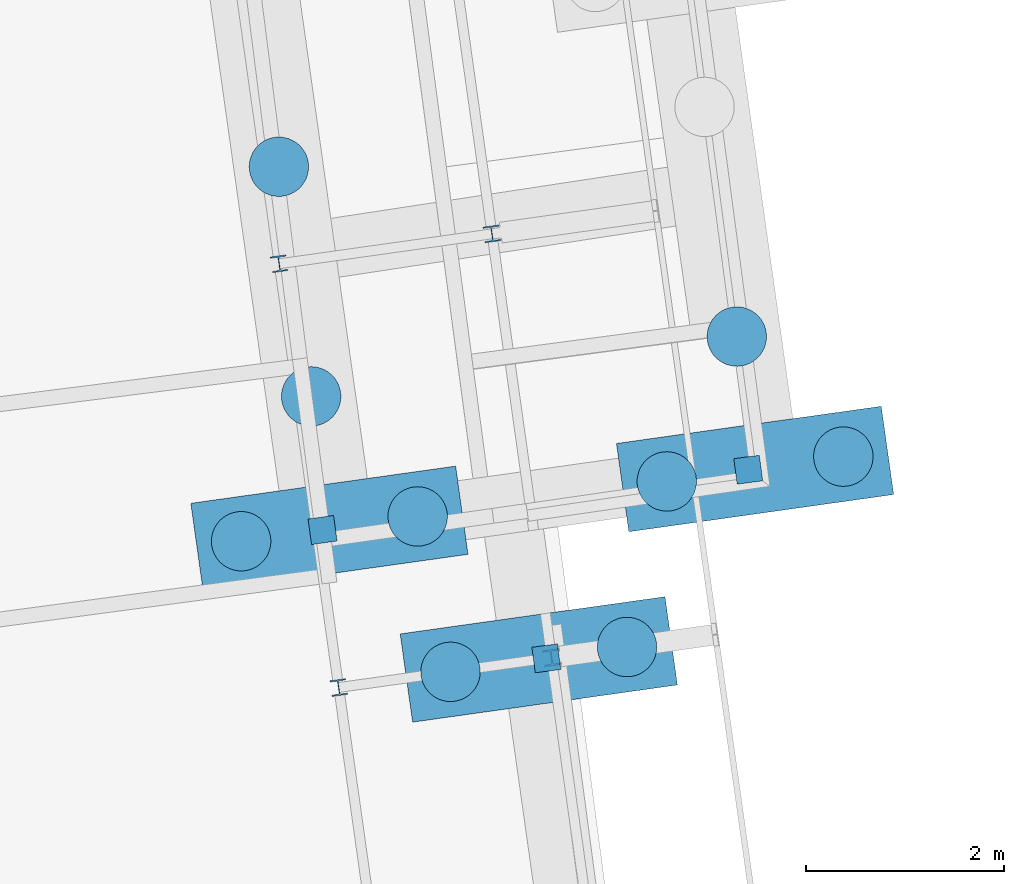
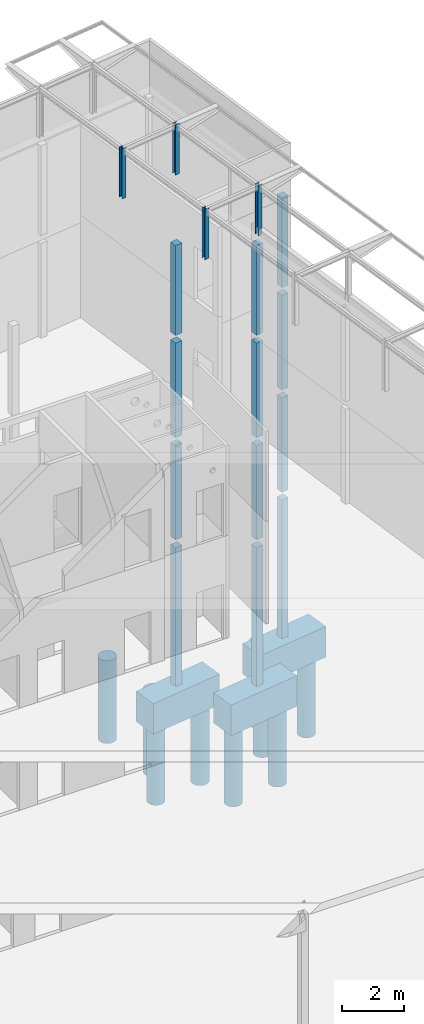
# One storey, part 58 of 82: 28 columns.
"""IFC2X3 building model written with IfcOpenShell, lengths in millimetres."""

from ifc_helpers import new_model, si_unit, frame, frame_2d, origin_with_axes, place, context, subcontext, project, spatial, rectangle, circle, i_section, extrude, material, type_object, element, save


model = new_model("IFC2X3")

# Units and contexts
model_context = context("Model", 3, precision=1e-05, world=origin_with_axes())
body_context = subcontext(model_context, "Body", "Model", "MODEL_VIEW")
ifc_project = project(units=[si_unit("LENGTHUNIT", "METRE", prefix="MILLI"), si_unit("AREAUNIT", "SQUARE_METRE"), si_unit("VOLUMEUNIT", "CUBIC_METRE"), si_unit("MASSUNIT", "GRAM", prefix="KILO"), si_unit("TIMEUNIT", "SECOND"), si_unit("PLANEANGLEUNIT", "RADIAN"), si_unit("SOLIDANGLEUNIT", "STERADIAN"), si_unit("THERMODYNAMICTEMPERATUREUNIT", "DEGREE_CELSIUS"), si_unit("LUMINOUSINTENSITYUNIT", "LUMEN")], contexts=[model_context])

# Site, building, storey
site_placement = place(None, origin_with_axes())
site = spatial("IfcSite", under=ifc_project, at=site_placement, Name="Undefined", CompositionType="ELEMENT")
building_placement = place(site_placement, origin_with_axes())
building = spatial("IfcBuilding", under=site, at=building_placement, Name="Undefined", CompositionType="ELEMENT")
storey_placement = place(building_placement, origin_with_axes())
storey = spatial("IfcBuildingStorey", under=building, at=storey_placement, Name="Undefined", CompositionType="ELEMENT", Elevation=0.0)

# Columns
ifc_material_1 = material(Name="CONCRETE/C25/30")
column_type_1 = type_object("IfcColumnType", Name="260*260", PredefinedType="NOTDEFINED")
column_1_placement = place(storey_placement, frame((63637.575516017, 19902.1024306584, 13330.0), z_axis=(0.0, 0.0, 1.0), x_axis=(1.0, 0.0, 0.0)))
element("IfcColumn", 1, at=column_1_placement, inside=storey, type_object=column_type_1, material=ifc_material_1, Name="POTEAU", ObjectType="260*260", context=body_context, shape_type="SweptSolid", body=[
    extrude(rectangle(XDim=260.0, YDim=260.0, at=frame_2d((5.17284206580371e-08, 4.49290382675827e-10), x_axis=(1.0, 0.0))), frame((0.0, 0.000229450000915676, 3530.0), z_axis=(0.0, -6.50000002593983e-08, -0.999999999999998), x_axis=(-0.139177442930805, 0.990267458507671, 0.0)), (0.0, 0.0, 1.0), 3530.0),
])
column_2_placement = place(storey_placement, frame((67935.7612497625, 20510.6763149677, 13330.0), z_axis=(0.0, 0.0, 1.0), x_axis=(1.0, 0.0, 0.0)))
element("IfcColumn", 2, at=column_2_placement, inside=storey, type_object=column_type_1, material=ifc_material_1, Name="POTEAU", ObjectType="260*260", context=body_context, shape_type="SweptSolid", body=[
    extrude(rectangle(XDim=260.0, YDim=260.0, at=frame_2d((5.17284206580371e-08, 4.49290382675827e-10), x_axis=(1.0, 0.0))), frame((0.0, 0.000229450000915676, 3530.0), z_axis=(0.0, -6.50000002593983e-08, -0.999999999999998), x_axis=(-0.131283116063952, 0.991344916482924, -6.44374198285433e-08)), (0.0, 0.0, 1.0), 3530.0),
])
column_3_placement = place(storey_placement, frame((65896.8167042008, 18606.6540428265, 13330.0), z_axis=(0.0, 0.0, 1.0), x_axis=(1.0, 0.0, 0.0)))
element("IfcColumn", 3, at=column_3_placement, inside=storey, type_object=column_type_1, material=ifc_material_1, Name="POTEAU", ObjectType="260*260", context=body_context, shape_type="SweptSolid", body=[
    extrude(rectangle(XDim=260.0, YDim=260.0, at=frame_2d((5.17284206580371e-08, 4.49290382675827e-10), x_axis=(1.0, 0.0))), frame((0.0, 0.0, 3529.99999999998), z_axis=(0.0, -6.50000002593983e-08, -0.999999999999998), x_axis=(0.132256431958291, -0.991215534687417, 0.0)), (0.0, 0.0, 1.0), 3530.0),
])
column_4_placement = place(storey_placement, frame((63637.575516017, 19902.1024306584, 9305.0), z_axis=(0.0, 0.0, 1.0), x_axis=(1.0, 0.0, 0.0)))
element("IfcColumn", 4, at=column_4_placement, inside=storey, type_object=column_type_1, material=ifc_material_1, Name="POTEAU", ObjectType="260*260", context=body_context, shape_type="SweptSolid", body=[
    extrude(rectangle(XDim=260.0, YDim=260.0, at=frame_2d((5.17284206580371e-08, 4.49290382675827e-10), x_axis=(1.0, 0.0))), frame((0.0, 0.000227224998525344, 3725.0), z_axis=(0.0, -6.50000002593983e-08, -0.999999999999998), x_axis=(-0.139177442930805, 0.990267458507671, 0.0)), (0.0, 0.0, 1.0), 3725.0),
])
column_5_placement = place(storey_placement, frame((67935.7612497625, 20510.6763149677, 9305.0), z_axis=(0.0, 0.0, 1.0), x_axis=(1.0, 0.0, 0.0)))
element("IfcColumn", 5, at=column_5_placement, inside=storey, type_object=column_type_1, material=ifc_material_1, Name="POTEAU", ObjectType="260*260", context=body_context, shape_type="SweptSolid", body=[
    extrude(rectangle(XDim=260.0, YDim=260.0, at=frame_2d((5.17284206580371e-08, 4.49290382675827e-10), x_axis=(1.0, 0.0))), frame((0.0, 0.000227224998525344, 3725.0), z_axis=(0.0, -6.50000002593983e-08, -0.999999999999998), x_axis=(-0.131283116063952, 0.991344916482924, -6.44374198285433e-08)), (0.0, 0.0, 1.0), 3725.0),
])
column_6_placement = place(storey_placement, frame((65896.8167042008, 18606.6540428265, 9305.0), z_axis=(0.0, 0.0, 1.0), x_axis=(1.0, 0.0, 0.0)))
element("IfcColumn", 6, at=column_6_placement, inside=storey, type_object=column_type_1, material=ifc_material_1, Name="POTEAU", ObjectType="260*260", context=body_context, shape_type="SweptSolid", body=[
    extrude(rectangle(XDim=260.0, YDim=260.0, at=frame_2d((5.17284206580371e-08, 4.49290382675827e-10), x_axis=(1.0, 0.0))), frame((0.0, 0.0, 3725.0), z_axis=(0.0, -6.50000002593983e-08, -0.999999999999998), x_axis=(0.132256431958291, -0.991215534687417, 0.0)), (0.0, 0.0, 1.0), 3725.0),
])
column_7_placement = place(storey_placement, frame((63637.575516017, 19902.1024306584, 5300.0), z_axis=(0.0, 0.0, 1.0), x_axis=(1.0, 0.0, 0.0)))
element("IfcColumn", 7, at=column_7_placement, inside=storey, type_object=column_type_1, material=ifc_material_1, Name="POTEAU", ObjectType="260*260", context=body_context, shape_type="SweptSolid", body=[
    extrude(rectangle(XDim=260.0, YDim=260.0, at=frame_2d((5.17284206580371e-08, 4.49290382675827e-10), x_axis=(1.0, 0.0))), frame((0.0, 0.000229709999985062, 3705.0), z_axis=(0.0, -6.50000002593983e-08, -0.999999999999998), x_axis=(-0.139177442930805, 0.990267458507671, 0.0)), (0.0, 0.0, 1.0), 3705.0),
])
column_8_placement = place(storey_placement, frame((65896.8167042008, 18606.6540428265, 5300.0), z_axis=(0.0, 0.0, 1.0), x_axis=(1.0, 0.0, 0.0)))
element("IfcColumn", 8, at=column_8_placement, inside=storey, type_object=column_type_1, material=ifc_material_1, Name="POTEAU", ObjectType="260*260", context=body_context, shape_type="SweptSolid", body=[
    extrude(rectangle(XDim=260.0, YDim=260.0, at=frame_2d((5.17284206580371e-08, 4.49290382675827e-10), x_axis=(1.0, 0.0))), frame((0.0, 0.0, 3705.00000000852), z_axis=(0.0, -6.50000002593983e-08, -0.999999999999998), x_axis=(0.132256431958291, -0.991215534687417, 0.0)), (0.0, 0.0, 1.0), 3705.0),
])
column_9_placement = place(storey_placement, frame((67935.7612497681, 20510.6763149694, 5300.0), z_axis=(0.0, 0.0, 1.0), x_axis=(1.0, 0.0, 0.0)))
element("IfcColumn", 9, at=column_9_placement, inside=storey, type_object=column_type_1, material=ifc_material_1, Name="POTEAU", ObjectType="260*260", context=body_context, shape_type="SweptSolid", body=[
    extrude(rectangle(XDim=260.0, YDim=260.0, at=frame_2d((5.17284206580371e-08, 4.49290382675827e-10), x_axis=(1.0, 0.0))), frame((0.0, 0.000229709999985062, 3705.0), z_axis=(0.0, -6.50000002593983e-08, -0.999999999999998), x_axis=(-0.131283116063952, 0.991344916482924, -6.44374198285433e-08)), (0.0, 0.0, 1.0), 3705.0),
])
column_10_placement = place(storey_placement, frame((63637.575516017, 19902.1024306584, -449.993469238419), z_axis=(0.0, 0.0, 1.0), x_axis=(1.0, 0.0, 0.0)))
element("IfcColumn", 10, at=column_10_placement, inside=storey, type_object=column_type_1, material=ifc_material_1, Name="POTEAU", ObjectType="260*260", context=body_context, shape_type="SweptSolid", body=[
    extrude(rectangle(XDim=260.0, YDim=260.0, at=frame_2d((5.17284206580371e-08, 4.49290382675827e-10), x_axis=(1.0, 0.0))), frame((0.0, 0.000228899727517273, 5449.99346923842), z_axis=(0.0, -6.50000002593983e-08, -0.999999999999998), x_axis=(-0.139177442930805, 0.990267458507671, 0.0)), (0.0, 0.0, 1.0), 5450.0),
])
column_11_placement = place(storey_placement, frame((67935.7612497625, 20510.6763149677, -449.992992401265), z_axis=(0.0, 0.0, 1.0), x_axis=(1.0, 0.0, 0.0)))
element("IfcColumn", 11, at=column_11_placement, inside=storey, type_object=column_type_1, material=ifc_material_1, Name="POTEAU", ObjectType="260*260", context=body_context, shape_type="SweptSolid", body=[
    extrude(rectangle(XDim=260.0, YDim=260.0, at=frame_2d((5.17284206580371e-08, 4.49290382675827e-10), x_axis=(1.0, 0.0))), frame((0.0, 0.0002288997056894, 5449.99299240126), z_axis=(0.0, -6.50000002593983e-08, -0.999999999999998), x_axis=(-0.131283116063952, 0.991344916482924, -6.44374198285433e-08)), (0.0, 0.0, 1.0), 5450.0),
])
column_12_placement = place(storey_placement, frame((65896.8167042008, 18606.6540428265, -450.000000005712), z_axis=(0.0, 0.0, 1.0), x_axis=(1.0, 0.0, 0.0)))
element("IfcColumn", 12, at=column_12_placement, inside=storey, type_object=column_type_1, material=ifc_material_1, Name="POTEAU", ObjectType="260*260", context=body_context, shape_type="SweptSolid", body=[
    extrude(rectangle(XDim=260.0, YDim=260.0, at=frame_2d((5.17284206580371e-08, 4.49290382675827e-10), x_axis=(1.0, 0.0))), frame((0.0, 0.0, 5450.00000000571), z_axis=(0.0, -6.50000002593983e-08, -0.999999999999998), x_axis=(0.132256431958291, -0.991215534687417, 0.0)), (0.0, 0.0, 1.0), 5450.0),
])
ifc_material_2 = material(Name="STEEL/S275JR")
column_type_2 = type_object("IfcColumnType", Name="HEB160", PredefinedType="NOTDEFINED")
for number, where, z_axis, x_axis, name in (
    (13, (65348.0376918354, 22892.6161477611, 17160.0), (0.0, 0.0, 1.0), (1.0, 0.0, 0.0), "POTEAU"),
    (14, (63199.1555759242, 22590.605906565, 17160.0), (0.0, 0.0, 1.0), (1.0, 0.0, 0.0), "POTEAU"),
    (15, (65949.4050480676, 18613.6655999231, 17160.0), (0.0, 0.0, 1.0), (1.0, 0.0, 0.0), "POTEAU"),
    (16, (63800.5229321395, 18311.6553587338, 17160.0), (0.0, 0.0, 1.0), (1.0, 0.0, 0.0), "POTEAU"),
):
    element("IfcColumn", number, at=place(storey_placement, frame(where, z_axis=z_axis, x_axis=x_axis)), inside=storey, type_object=column_type_2, material=ifc_material_2, Name=name, ObjectType="HEB160", context=body_context, shape_type="SweptSolid", body=[
        extrude(i_section(OverallWidth=160.0, OverallDepth=160.0, WebThickness=8.0, FlangeThickness=13.0, FilletRadius=15.0, at=frame_2d((5.17284206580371e-08, 4.49290382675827e-10), x_axis=(1.0, 0.0))), frame((0.0, 0.0, 1965.0), z_axis=(0.0, -6.50000002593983e-08, -0.999999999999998), x_axis=(-0.990268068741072, -0.13917310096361, 0.0)), (0.0, 0.0, 1.0), 1965.0),
    ])
ifc_material_3 = material(Name="CONCRETE/C30/37")
column_type_3 = type_object("IfcColumnType", Name="2700*900", PredefinedType="NOTDEFINED")
for number, where, z_axis, x_axis, name in (
    (17, (68004.3509592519, 20518.1920174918, -1650.0), (0.0, 0.0, 1.0), (1.0, 0.0, 0.0), "SEMELLE"),
    (18, (63706.5823414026, 19914.1804993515, -1650.0), (0.0, 0.0, 1.0), (1.0, 0.0, 0.0), "SEMELLE"),
    (19, (65820.6733745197, 18595.5806843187, -1650.00000000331), (0.0, 0.0, 1.0), (1.0, 0.0, 0.0), "SEMELLE"),
):
    element("IfcColumn", number, at=place(storey_placement, frame(where, z_axis=z_axis, x_axis=x_axis)), inside=storey, type_object=column_type_3, material=ifc_material_3, Name=name, ObjectType="2700*900", context=body_context, shape_type="SweptSolid", body=[
        extrude(rectangle(XDim=900.0, YDim=2700.0, at=frame_2d((5.17284206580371e-08, 4.49290382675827e-10), x_axis=(1.0, 0.0))), frame((0.0, 0.0, 1200.0), z_axis=(0.0, -6.50000002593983e-08, -0.999999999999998), x_axis=(0.13917310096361, -0.990268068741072, 0.0)), (0.0, 0.0, 1.0), 1200.0),
    ])
column_type_4 = type_object("IfcColumnType", Name="D600", PredefinedType="NOTDEFINED")
for number, where, z_axis, x_axis in (
    (20, (67820.1912286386, 21855.5799548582, -4675.0), (0.0, 0.0, 1.0), (1.0, 0.0, 0.0)),
    (21, (63196.5359018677, 23570.41011449, -4675.0), (0.0, 0.0, 1.0), (1.0, 0.0, 0.0)),
    (22, (63522.427810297, 21251.5686966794, -4675.0), (0.0, 0.0, 1.0), (1.0, 0.0, 0.0)),
    (23, (67113.1102451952, 20392.9389803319, -4675.0), (0.0, 0.0, 1.0), (1.0, 0.0, 0.0)),
):
    element("IfcColumn", number, at=place(storey_placement, frame(where, z_axis=z_axis, x_axis=x_axis)), inside=storey, type_object=column_type_4, material=ifc_material_1, Name="PIEU", ObjectType="D600", context=body_context, shape_type="SweptSolid", body=[
        extrude(circle(Radius=300.0, at=frame_2d((5.17284206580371e-08, 4.49290382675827e-10), x_axis=(1.0, 0.0))), frame((0.0, 0.0, 3250.0), z_axis=(0.0, -6.50000002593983e-08, -0.999999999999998), x_axis=(0.146083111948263, -0.989272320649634, 0.0)), (0.0, 0.0, 1.0), 3250.0),
    ])
column_13_placement = place(storey_placement, frame((68895.5831917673, 20643.4492160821, -4675.0), z_axis=(0.0, 0.0, 1.0), x_axis=(1.0, 0.0, 0.0)))
element("IfcColumn", 24, at=column_13_placement, inside=storey, type_object=column_type_4, material=ifc_material_1, Name="PIEU", ObjectType="D600", context=body_context, shape_type="SweptSolid", body=[
    extrude(circle(Radius=300.0, at=frame_2d((5.17284206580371e-08, 4.49290382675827e-10), x_axis=(1.0, 0.0))), frame((0.0, 0.0, 3250.0), z_axis=(0.0, -6.50000002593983e-08, -0.999999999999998), x_axis=(-0.132256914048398, 0.991215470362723, 0.0)), (0.0, 0.0, 1.0), 3250.0),
])
column_14_placement = place(storey_placement, frame((62815.3468268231, 19788.9277221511, -4675.0), z_axis=(0.0, 0.0, 1.0), x_axis=(1.0, 0.0, 0.0)))
element("IfcColumn", 25, at=column_14_placement, inside=storey, type_object=column_type_4, material=ifc_material_1, Name="PIEU", ObjectType="D600", context=body_context, shape_type="SweptSolid", body=[
    extrude(circle(Radius=300.0, at=frame_2d((5.17284206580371e-08, 4.49290382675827e-10), x_axis=(1.0, 0.0))), frame((0.0, 0.0, 3250.0), z_axis=(0.0, -6.50000002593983e-08, -0.999999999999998), x_axis=(0.146083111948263, -0.989272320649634, 0.0)), (0.0, 0.0, 1.0), 3250.0),
])
for number, where, z_axis, x_axis in (
    (26, (64597.8197733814, 20039.4379579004, -4675.0), (0.0, 0.0, 1.0), (1.0, 0.0, 0.0)),
    (27, (64929.4297016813, 18470.3184602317, -4675.0), (0.0, 0.0, 1.0), (1.0, 0.0, 0.0)),
    (28, (66711.9135953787, 18720.8324571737, -4675.0), (0.0, 0.0, 1.0), (1.0, 0.0, 0.0)),
):
    element("IfcColumn", number, at=place(storey_placement, frame(where, z_axis=z_axis, x_axis=x_axis)), inside=storey, type_object=column_type_4, material=ifc_material_1, Name="PIEU", ObjectType="D600", context=body_context, shape_type="SweptSolid", body=[
        extrude(circle(Radius=300.0, at=frame_2d((5.17284206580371e-08, 4.49290382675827e-10), x_axis=(1.0, 0.0))), frame((0.0, 0.0, 3250.0), z_axis=(0.0, -6.50000002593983e-08, -0.999999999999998), x_axis=(-0.132256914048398, 0.991215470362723, 0.0)), (0.0, 0.0, 1.0), 3250.0),
    ])

save(model, "model.ifc")
